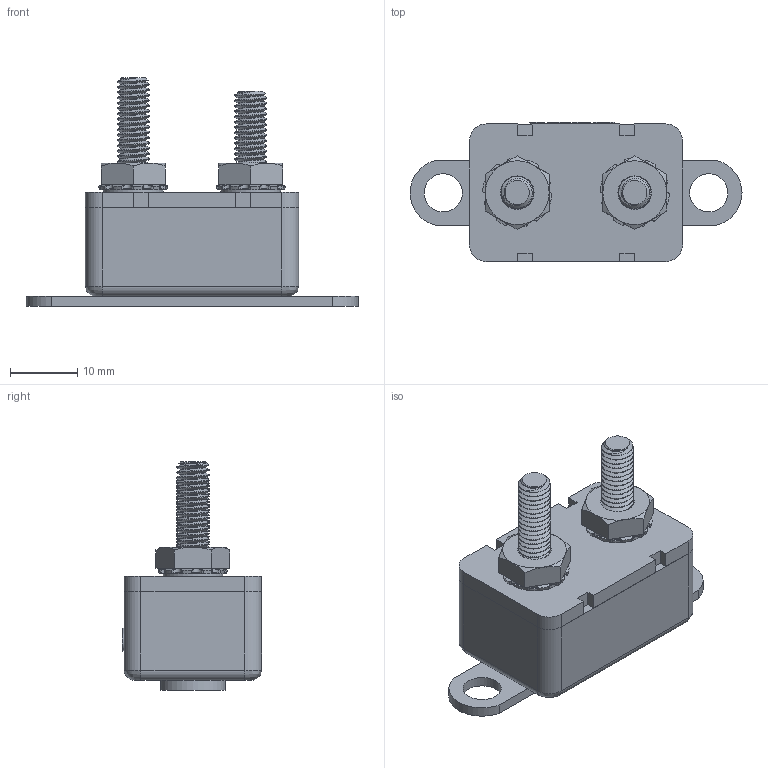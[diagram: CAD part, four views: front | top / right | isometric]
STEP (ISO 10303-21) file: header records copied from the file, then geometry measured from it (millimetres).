
FILE_DESCRIPTION(/* description */ (''),/* implementation_level */ '2;1');
FILE_NAME(/* name */ 'C:\Users\Hani\Desktop\work\ACB-12-V\ACB-12-V.stp',/* time_stamp */ '2021-08-06T13:41:03-07:00',/* author */ ('Hani'),/* organization */ (''),/* preprocessor_version */ 'ST-DEVELOPER v17',/* originating_system */ 'Autodesk Inventor 2019',/* authorisation */ '');
FILE_SCHEMA (('AUTOMOTIVE_DESIGN { 1 0 10303 214 3 1 1 }'));
Length unit declared in the file: inch
Products named in the file (4): ACBP-V; ACBP-V_1; THREADED ROD; HEX NUT WITH TOOTH WASHER
Assembly tree (5 placements, depth 2):
  ACBP-V
    ACBP-V_1
    THREADED ROD  x2
    HEX NUT WITH TOOTH WASHER  x2
Bounding box: 49.53 x 20.76 x 34.16 mm (x, y, z)
Volume: 11644.3 mm3; surface area: 6529.7 mm2
Topology: 8 solids, 8 shells, 456 faces, 1260 edges, 836 vertices
Faces by surface type: cylinder 160, plane 131, bspline 119, cone 46
Full cylindrical faces by diameter (mm): 3.795 x46, 3.967 x6, 4.826 x52, 5.7 x2, 6.413 x2, 8.89 x2
Entity records: 16449 total; most frequent: CARTESIAN_POINT 8721, ORIENTED_EDGE 1776, DIRECTION 1170, EDGE_CURVE 888, VERTEX_POINT 588, LINE 418, VECTOR 418, AXIS2_PLACEMENT_3D 376
